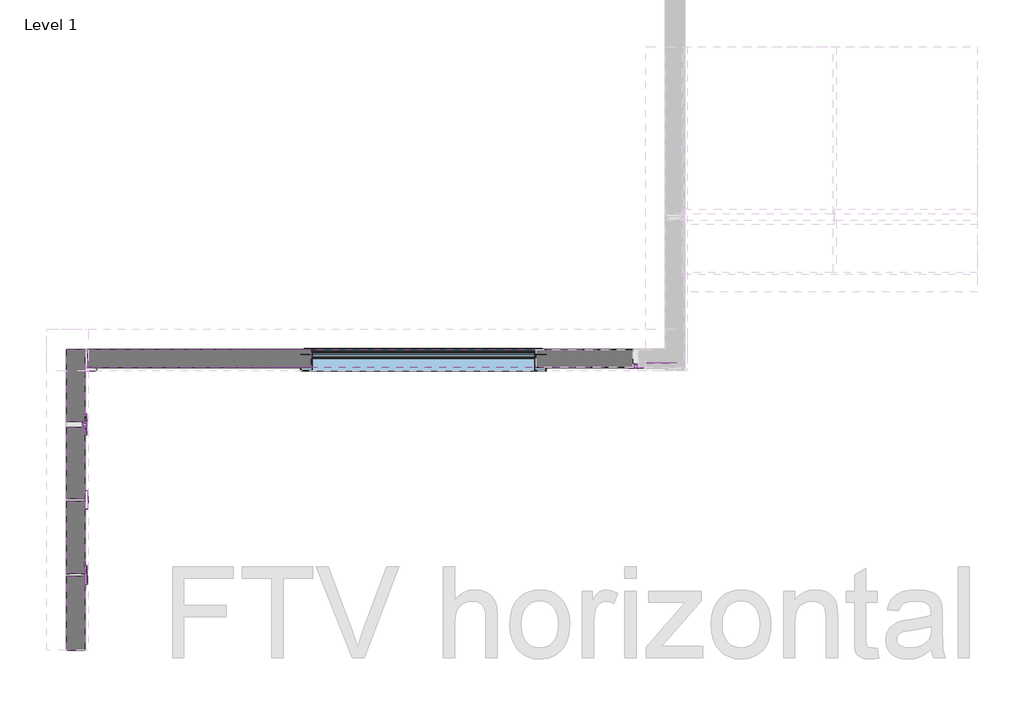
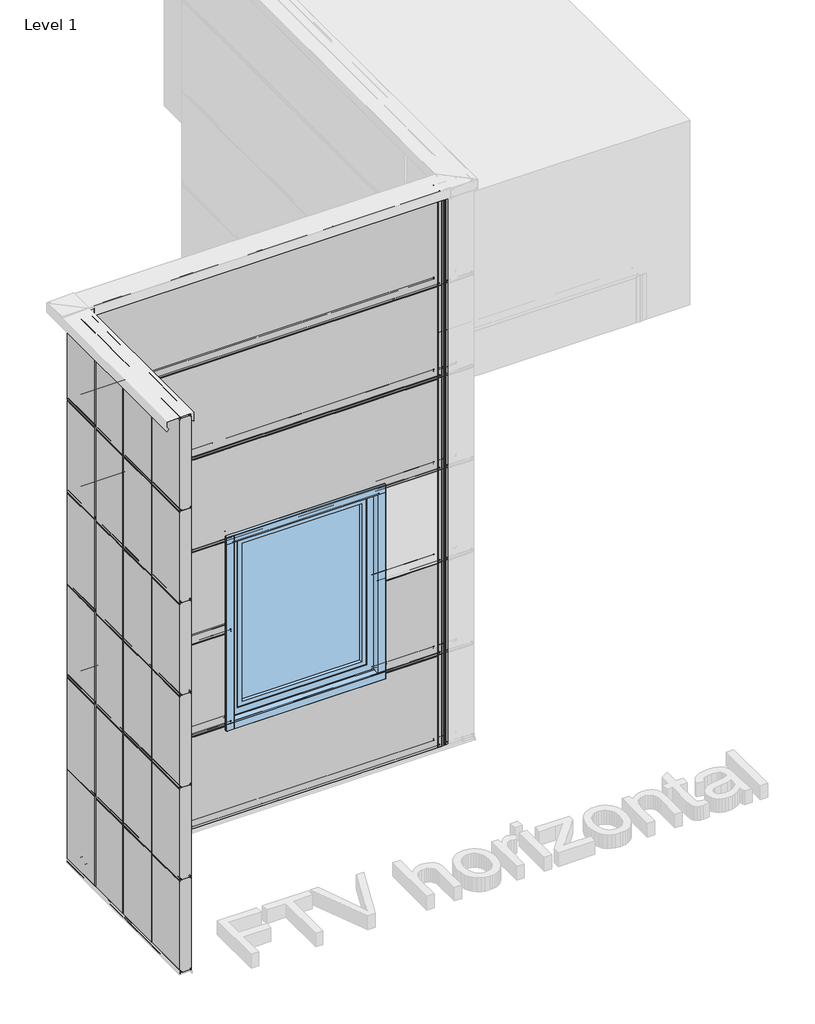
# One storey, part 1 of 16: 37 plates, 30 members, 1 window.
"""IFC4 building model written with IfcOpenShell, lengths in millimetres."""

from ifc_helpers import new_model, si_unit, point, frame, frame_2d, origin, place, context, project, spatial, polyline, circle_curve, trimmed, segment, composite_curve, outline, extrude, transform, mapped, element, save
from components import rectangular_mullion_6308ee2a, rectangular_mullion_7144c495, rectangular_mullion_135eb77f, rectangular_mullion_4161400c, rectangular_mullion_02bb17b1, plate_120_ral9006_ral9002_ab2d50b4, plate_120_ral9006_ral9002_a1a76ba9, plate_120_ral9006_ral9002_dde24b33, plate_120_ral9006_ral9002_b39c6196, plate_120_ral9006_ral9002_7d0d0ae2, tr_empty_empty_6663efe4, window_1663a2fa

model = new_model("IFC4")

# Units and contexts
model_context = context("Model", 3, world=origin())
ifc_project = project(units=[si_unit("LENGTHUNIT", "METRE", prefix="MILLI")], contexts=[model_context])

# Site, building, storey
site = spatial("IfcSite", under=ifc_project)
building = spatial("IfcBuilding", under=site)
storey = spatial("IfcBuildingStorey", under=building, Name="Level 1", Elevation=0.0)

# Members
placement = place(None, origin())
rectangular_mullion_shape = rectangular_mullion_6308ee2a(model_context)
element("IfcMember", 1, ObjectType="Rectangular Mullion : TE-H-01_03_Joint HF102", at=placement, inside=storey, context=model_context, shape_type="MappedRepresentation", body=[
    mapped(rectangular_mullion_shape, transform((-314.1155057, -12030.3930879, 1167.0), x_axis=(-1.0, 0.0, 0.0), y_axis=(0.0, 1.0, 0.0), z_axis=(0.0, 0.0, -1.0))),
])
element("IfcMember", 2, ObjectType="Rectangular Mullion : TE-H-01_03_Joint HF102", at=placement, inside=storey, context=model_context, shape_type="MappedRepresentation", body=[
    mapped(rectangular_mullion_shape, transform((-314.1155057, -12030.3930879, 2167.0), x_axis=(-1.0, 0.0, 0.0), y_axis=(0.0, 1.0, 0.0), z_axis=(0.0, 0.0, -1.0))),
])
element("IfcMember", 3, ObjectType="Rectangular Mullion : TE-H-01_03_Joint HF102", at=placement, inside=storey, context=model_context, shape_type="MappedRepresentation", body=[
    mapped(rectangular_mullion_shape, transform((-314.1155057, -12030.3930879, 3167.0), x_axis=(-1.0, 0.0, 0.0), y_axis=(0.0, 1.0, 0.0), z_axis=(0.0, 0.0, -1.0))),
])
element("IfcMember", 4, ObjectType="Rectangular Mullion : TE-H-01_03_Joint HF102", at=placement, inside=storey, context=model_context, shape_type="MappedRepresentation", body=[
    mapped(rectangular_mullion_shape, transform((-314.1155057, -12030.3930879, 4167.0), x_axis=(-1.0, 0.0, 0.0), y_axis=(0.0, 1.0, 0.0), z_axis=(0.0, 0.0, -1.0))),
])
rectangular_mullion_2_shape = rectangular_mullion_7144c495(model_context)
element("IfcMember", 5, ObjectType="Rectangular Mullion : TE-H-01_04_Joint HF140", at=placement, inside=storey, context=model_context, shape_type="MappedRepresentation", body=[
    mapped(rectangular_mullion_2_shape, transform((-3974.1155057, -12410.3930879, 1167.0), x_axis=(0.0, -1.0, 0.0), y_axis=(-1.0, 0.0, 0.0), z_axis=(0.0, 0.0, -1.0))),
])
element("IfcMember", 6, ObjectType="Rectangular Mullion : TE-H-01_04_Joint HF140", at=placement, inside=storey, context=model_context, shape_type="MappedRepresentation", body=[
    mapped(rectangular_mullion_2_shape, transform((-3974.1155057, -12410.3930879, 2167.0), x_axis=(0.0, -1.0, 0.0), y_axis=(-1.0, 0.0, 0.0), z_axis=(0.0, 0.0, -1.0))),
])
element("IfcMember", 7, ObjectType="Rectangular Mullion : TE-H-01_04_Joint HF140", at=placement, inside=storey, context=model_context, shape_type="MappedRepresentation", body=[
    mapped(rectangular_mullion_2_shape, transform((-3974.1155057, -12410.3930879, 3167.0), x_axis=(0.0, -1.0, 0.0), y_axis=(-1.0, 0.0, 0.0), z_axis=(0.0, 0.0, -1.0))),
])
element("IfcMember", 8, ObjectType="Rectangular Mullion : TE-H-01_04_Joint HF140", at=placement, inside=storey, context=model_context, shape_type="MappedRepresentation", body=[
    mapped(rectangular_mullion_2_shape, transform((-3974.1155057, -12410.3930879, 4167.0), x_axis=(0.0, -1.0, 0.0), y_axis=(-1.0, 0.0, 0.0), z_axis=(0.0, 0.0, -1.0))),
])
rectangular_mullion_3_shape = rectangular_mullion_135eb77f(model_context)
element("IfcMember", 9, ObjectType="Rectangular Mullion : TE-H-01_01_Joint flashing", at=placement, inside=storey, context=model_context, shape_type="MappedRepresentation", body=[
    mapped(rectangular_mullion_3_shape, transform((-3974.1155057, -13410.3930879, 1167.0), x_axis=(0.0, -1.0, 0.0), y_axis=(-1.0, 0.0, 0.0), z_axis=(0.0, 0.0, -1.0))),
])
element("IfcMember", 10, ObjectType="Rectangular Mullion : TE-H-01_01_Joint flashing", at=placement, inside=storey, context=model_context, shape_type="MappedRepresentation", body=[
    mapped(rectangular_mullion_3_shape, transform((-3974.1155057, -13410.3930879, 2167.0), x_axis=(0.0, -1.0, 0.0), y_axis=(-1.0, 0.0, 0.0), z_axis=(0.0, 0.0, -1.0))),
])
element("IfcMember", 11, ObjectType="Rectangular Mullion : TE-H-01_01_Joint flashing", at=placement, inside=storey, context=model_context, shape_type="MappedRepresentation", body=[
    mapped(rectangular_mullion_3_shape, transform((-3974.1155057, -13410.3930879, 3167.0), x_axis=(0.0, -1.0, 0.0), y_axis=(-1.0, 0.0, 0.0), z_axis=(0.0, 0.0, -1.0))),
])
element("IfcMember", 12, ObjectType="Rectangular Mullion : TE-H-01_01_Joint flashing", at=placement, inside=storey, context=model_context, shape_type="MappedRepresentation", body=[
    mapped(rectangular_mullion_3_shape, transform((-3974.1155057, -13410.3930879, 4167.0), x_axis=(0.0, -1.0, 0.0), y_axis=(-1.0, 0.0, 0.0), z_axis=(0.0, 0.0, -1.0))),
])
rectangular_mullion_4_shape = rectangular_mullion_4161400c(model_context)
element("IfcMember", 13, ObjectType="Rectangular Mullion : TE-H-01_02_Joint flashing i", at=placement, inside=storey, context=model_context, shape_type="MappedRepresentation", body=[
    mapped(rectangular_mullion_4_shape, transform((-3974.1155057, -12910.3930879, 1167.0), x_axis=(0.0, -1.0, 0.0), y_axis=(-1.0, 0.0, 0.0), z_axis=(0.0, 0.0, -1.0))),
])
element("IfcMember", 14, ObjectType="Rectangular Mullion : TE-H-01_02_Joint flashing i", at=placement, inside=storey, context=model_context, shape_type="MappedRepresentation", body=[
    mapped(rectangular_mullion_4_shape, transform((-3974.1155057, -12910.3930879, 2167.0), x_axis=(0.0, -1.0, 0.0), y_axis=(-1.0, 0.0, 0.0), z_axis=(0.0, 0.0, -1.0))),
])
element("IfcMember", 15, ObjectType="Rectangular Mullion : TE-H-01_02_Joint flashing i", at=placement, inside=storey, context=model_context, shape_type="MappedRepresentation", body=[
    mapped(rectangular_mullion_4_shape, transform((-3974.1155057, -12910.3930879, 3167.0), x_axis=(0.0, -1.0, 0.0), y_axis=(-1.0, 0.0, 0.0), z_axis=(0.0, 0.0, -1.0))),
])
element("IfcMember", 16, ObjectType="Rectangular Mullion : TE-H-01_02_Joint flashing i", at=placement, inside=storey, context=model_context, shape_type="MappedRepresentation", body=[
    mapped(rectangular_mullion_4_shape, transform((-3974.1155057, -12910.3930879, 4167.0), x_axis=(0.0, -1.0, 0.0), y_axis=(-1.0, 0.0, 0.0), z_axis=(0.0, 0.0, -1.0))),
])
rectangular_mullion_5_shape = rectangular_mullion_02bb17b1(model_context)
element("IfcMember", 17, ObjectType="Rectangular Mullion : TE-H-05_02_Internal corner i L", at=placement, inside=storey, context=model_context, shape_type="MappedRepresentation", body=[
    mapped(rectangular_mullion_5_shape, transform((-3974.1155057, -12030.3930879, 1167.0), x_axis=(-1.0, 0.0, 0.0), y_axis=(0.0, 1.0, 0.0), z_axis=(0.0, 0.0, -1.0))),
])
element("IfcMember", 18, ObjectType="Rectangular Mullion : TE-H-05_02_Internal corner i L", at=placement, inside=storey, context=model_context, shape_type="MappedRepresentation", body=[
    mapped(rectangular_mullion_5_shape, transform((-3974.1155057, -12030.3930879, 2167.0), x_axis=(-1.0, 0.0, 0.0), y_axis=(0.0, 1.0, 0.0), z_axis=(0.0, 0.0, -1.0))),
])
element("IfcMember", 19, ObjectType="Rectangular Mullion : TE-H-05_02_Internal corner i L", at=placement, inside=storey, context=model_context, shape_type="MappedRepresentation", body=[
    mapped(rectangular_mullion_5_shape, transform((-3974.1155057, -12030.3930879, 3167.0), x_axis=(-1.0, 0.0, 0.0), y_axis=(0.0, 1.0, 0.0), z_axis=(0.0, 0.0, -1.0))),
])
element("IfcMember", 20, ObjectType="Rectangular Mullion : TE-H-05_02_Internal corner i L", at=placement, inside=storey, context=model_context, shape_type="MappedRepresentation", body=[
    mapped(rectangular_mullion_5_shape, transform((-3974.1155057, -12030.3930879, 4167.0), x_axis=(-1.0, 0.0, 0.0), y_axis=(0.0, 1.0, 0.0), z_axis=(0.0, 0.0, -1.0))),
])
element("IfcMember", 21, ObjectType="Rectangular Mullion : TE-H-01_04_Joint HF140", at=placement, inside=storey, context=model_context, shape_type="MappedRepresentation", body=[
    mapped(rectangular_mullion_2_shape, transform((-3974.1155057, -12410.3930879, 167.0), x_axis=(0.0, -1.0, 0.0), y_axis=(-1.0, 0.0, 0.0), z_axis=(0.0, 0.0, -1.0))),
])
element("IfcMember", 22, ObjectType="Rectangular Mullion : TE-H-01_04_Joint HF140", at=placement, inside=storey, context=model_context, shape_type="MappedRepresentation", body=[
    mapped(rectangular_mullion_2_shape, transform((-3974.1155057, -12410.3930879, 5167.0), x_axis=(0.0, -1.0, 0.0), y_axis=(-1.0, 0.0, 0.0), z_axis=(0.0, 0.0, -1.0))),
])
element("IfcMember", 23, ObjectType="Rectangular Mullion : TE-H-01_01_Joint flashing", at=placement, inside=storey, context=model_context, shape_type="MappedRepresentation", body=[
    mapped(rectangular_mullion_3_shape, transform((-3974.1155057, -13410.3930879, 167.0), x_axis=(0.0, -1.0, 0.0), y_axis=(-1.0, 0.0, 0.0), z_axis=(0.0, 0.0, -1.0))),
])
element("IfcMember", 24, ObjectType="Rectangular Mullion : TE-H-01_01_Joint flashing", at=placement, inside=storey, context=model_context, shape_type="MappedRepresentation", body=[
    mapped(rectangular_mullion_3_shape, transform((-3974.1155057, -13410.3930879, 5167.0), x_axis=(0.0, -1.0, 0.0), y_axis=(-1.0, 0.0, 0.0), z_axis=(0.0, 0.0, -1.0))),
])
element("IfcMember", 25, ObjectType="Rectangular Mullion : TE-H-01_02_Joint flashing i", at=placement, inside=storey, context=model_context, shape_type="MappedRepresentation", body=[
    mapped(rectangular_mullion_4_shape, transform((-3974.1155057, -12910.3930879, 167.0), x_axis=(0.0, -1.0, 0.0), y_axis=(-1.0, 0.0, 0.0), z_axis=(0.0, 0.0, -1.0))),
])
element("IfcMember", 26, ObjectType="Rectangular Mullion : TE-H-01_02_Joint flashing i", at=placement, inside=storey, context=model_context, shape_type="MappedRepresentation", body=[
    mapped(rectangular_mullion_4_shape, transform((-3974.1155057, -12910.3930879, 5167.0), x_axis=(0.0, -1.0, 0.0), y_axis=(-1.0, 0.0, 0.0), z_axis=(0.0, 0.0, -1.0))),
])
element("IfcMember", 27, ObjectType="Rectangular Mullion : TE-H-01_03_Joint HF102", at=placement, inside=storey, context=model_context, shape_type="MappedRepresentation", body=[
    mapped(rectangular_mullion_shape, transform((-314.1155057, -12030.3930879, 167.0), x_axis=(-1.0, 0.0, 0.0), y_axis=(0.0, 1.0, 0.0), z_axis=(0.0, 0.0, -1.0))),
])
element("IfcMember", 28, ObjectType="Rectangular Mullion : TE-H-01_03_Joint HF102", at=placement, inside=storey, context=model_context, shape_type="MappedRepresentation", body=[
    mapped(rectangular_mullion_shape, transform((-314.1155057, -12030.3930879, 5167.0), x_axis=(-1.0, 0.0, 0.0), y_axis=(0.0, 1.0, 0.0), z_axis=(0.0, 0.0, -1.0))),
])
element("IfcMember", 29, ObjectType="Rectangular Mullion : TE-H-05_02_Internal corner i L", at=placement, inside=storey, context=model_context, shape_type="MappedRepresentation", body=[
    mapped(rectangular_mullion_5_shape, transform((-3974.1155057, -12030.3930879, 167.0), x_axis=(-1.0, 0.0, 0.0), y_axis=(0.0, 1.0, 0.0), z_axis=(0.0, 0.0, -1.0))),
])
element("IfcMember", 30, ObjectType="Rectangular Mullion : TE-H-05_02_Internal corner i L", at=placement, inside=storey, context=model_context, shape_type="MappedRepresentation", body=[
    mapped(rectangular_mullion_5_shape, transform((-3974.1155057, -12030.3930879, 5167.0), x_axis=(-1.0, 0.0, 0.0), y_axis=(0.0, 1.0, 0.0), z_axis=(0.0, 0.0, -1.0))),
])

# Plates
element("IfcPlate", 31, ObjectType="TR_C_H_FTV_Panel : 120/RAL9006/RAL9002", at=placement, inside=storey, context=model_context, shape_type="SweptSolid", body=[
    extrude(outline(composite_curve([segment(polyline([(-11927.2800551, 2166.8000012), (-11931.3930879, 2166.8000012), (-11931.3930879, 2167.6000012), (-11927.2800551, 2167.6000012)]), True, "CONTINUOUS"), segment(trimmed(circle_curve(frame_2d((-11927.2800551, 2171.3500012)), 3.75), [point((-11927.2800551, 2167.6000012))], [point((-11923.587026, 2170.6988205))], True, "CARTESIAN"), True, "CONTINUOUS"), segment(polyline([(-11923.587026, 2170.6988205), (-11922.8437131, 2174.9143577)]), True, "CONTINUOUS"), segment(trimmed(circle_curve(frame_2d((-11919.6430879, 2174.3500012)), 3.25), [point((-11922.8437131, 2174.9143577))], [point((-11916.3930879, 2174.3500012))], False, "CARTESIAN"), True, "CONTINUOUS"), segment(polyline([(-11916.3930879, 2174.3500012), (-11916.3930879, 2159.6000012)]), True, "CONTINUOUS"), segment(trimmed(circle_curve(frame_2d((-11913.8930879, 2159.6000012)), 2.5), [point((-11916.3930879, 2159.6000012))], [point((-11915.6608548, 2157.8322342))], True, "CARTESIAN"), True, "CONTINUOUS"), segment(polyline([(-11915.6608548, 2157.8322342), (-11911.2717675, 2153.4431469)]), True, "CONTINUOUS"), segment(trimmed(circle_curve(frame_2d((-11913.3930879, 2151.3218266)), 3.0), [point((-11911.2717675, 2153.4431469))], [point((-11910.3930879, 2151.3218266))], False, "CARTESIAN"), True, "CONTINUOUS"), segment(polyline([(-11910.3930879, 2151.3218266), (-11910.3930879, 1161.981372)]), True, "CONTINUOUS"), segment(trimmed(circle_curve(frame_2d((-11913.1430879, 1161.981372)), 2.75), [point((-11910.3930879, 1161.981372))], [point((-11911.1985442, 1160.0368284))], False, "CARTESIAN"), True, "CONTINUOUS"), segment(polyline([(-11911.1985442, 1160.0368284), (-11913.0642296, 1158.1711429)]), True, "CONTINUOUS"), segment(trimmed(circle_curve(frame_2d((-11914.4430879, 1159.5500012)), 1.95), [point((-11913.0642296, 1158.1711429))], [point((-11916.3930879, 1159.5500012))], False, "CARTESIAN"), True, "CONTINUOUS"), segment(polyline([(-11916.3930879, 1159.5500012), (-11916.3930879, 1177.1500012)]), True, "CONTINUOUS"), segment(trimmed(circle_curve(frame_2d((-11919.8430879, 1177.1500012)), 3.45), [point((-11916.3930879, 1177.1500012))], [point((-11923.2406746, 1177.7490874))], True, "CARTESIAN"), True, "CONTINUOUS"), segment(polyline([(-11923.2406746, 1177.7490874), (-11924.3074999, 1171.6988205)]), True, "CONTINUOUS"), segment(trimmed(circle_curve(frame_2d((-11928.000529, 1172.3500012)), 3.75), [point((-11924.3074999, 1171.6988205))], [point((-11928.000529, 1168.6000012))], False, "CARTESIAN"), True, "CONTINUOUS"), segment(polyline([(-11928.000529, 1168.6000012), (-11931.3930879, 1168.6000012), (-11931.3930879, 1169.4000012), (-11928.000529, 1169.4000012)]), True, "CONTINUOUS"), segment(trimmed(circle_curve(frame_2d((-11928.000529, 1172.3500012)), 2.95), [point((-11928.000529, 1169.4000012))], [point((-11925.0953461, 1171.837739))], True, "CARTESIAN"), True, "CONTINUOUS"), segment(polyline([(-11925.0953461, 1171.837739), (-11924.0285208, 1177.8880059)]), True, "CONTINUOUS"), segment(trimmed(circle_curve(frame_2d((-11919.8430879, 1177.1500012)), 4.25), [point((-11924.0285208, 1177.8880059))], [point((-11915.5930879, 1177.1500012))], False, "CARTESIAN"), True, "CONTINUOUS"), segment(polyline([(-11915.5930879, 1177.1500012), (-11915.5930879, 1159.5500012)]), True, "CONTINUOUS"), segment(trimmed(circle_curve(frame_2d((-11914.4430879, 1159.5500012)), 1.15), [point((-11915.5930879, 1159.5500012))], [point((-11913.6299151, 1158.7368284))], True, "CARTESIAN"), True, "CONTINUOUS"), segment(polyline([(-11913.6299151, 1158.7368284), (-11911.7642296, 1160.6025138)]), True, "CONTINUOUS"), segment(trimmed(circle_curve(frame_2d((-11913.1430879, 1161.981372)), 1.95), [point((-11911.7642296, 1160.6025138))], [point((-11911.1930879, 1161.981372))], True, "CARTESIAN"), True, "CONTINUOUS"), segment(polyline([(-11911.1930879, 1161.981372), (-11911.1930879, 2151.3218266)]), True, "CONTINUOUS"), segment(trimmed(circle_curve(frame_2d((-11913.3930879, 2151.3218266)), 2.2), [point((-11911.1930879, 2151.3218266))], [point((-11911.837453, 2152.8774615))], True, "CARTESIAN"), True, "CONTINUOUS"), segment(polyline([(-11911.837453, 2152.8774615), (-11916.2265402, 2157.2665488)]), True, "CONTINUOUS"), segment(trimmed(circle_curve(frame_2d((-11913.8930879, 2159.6000012)), 3.3), [point((-11916.2265402, 2157.2665488))], [point((-11917.1930879, 2159.6000012))], False, "CARTESIAN"), True, "CONTINUOUS"), segment(polyline([(-11917.1930879, 2159.6000012), (-11917.1930879, 2174.3500012)]), True, "CONTINUOUS"), segment(trimmed(circle_curve(frame_2d((-11919.6430879, 2174.3500012)), 2.45), [point((-11917.1930879, 2174.3500012))], [point((-11922.0558669, 2174.7754392))], True, "CARTESIAN"), True, "CONTINUOUS"), segment(polyline([(-11922.0558669, 2174.7754392), (-11922.7991798, 2170.559902)]), True, "CONTINUOUS"), segment(trimmed(circle_curve(frame_2d((-11927.2800551, 2171.3500012)), 4.55), [point((-11922.7991798, 2170.559902))], [point((-11927.2800551, 2166.8000012))], False, "CARTESIAN"), True, "CONTINUOUS")], self_intersect=False)), frame((-974.1155057, 0.0, 0.0), z_axis=(1.0, 0.0, 0.0), x_axis=(0.0, 1.0, 0.0)), (0.0, 0.0, 1.0), 640.0),
    extrude(outline(composite_curve([segment(polyline([(-12009.3930879, 1169.4000012), (-12009.3930879, 1168.6000012), (-12012.7856468, 1168.6000012)]), True, "CONTINUOUS"), segment(trimmed(circle_curve(frame_2d((-12012.7856468, 1172.3500012)), 3.75), [point((-12012.7856468, 1168.6000012))], [point((-12016.4786758, 1171.6988205))], False, "CARTESIAN"), True, "CONTINUOUS"), segment(polyline([(-12016.4786758, 1171.6988205), (-12017.5455011, 1177.7490874)]), True, "CONTINUOUS"), segment(trimmed(circle_curve(frame_2d((-12020.9430879, 1177.1500012)), 3.45), [point((-12017.5455011, 1177.7490874))], [point((-12024.3930879, 1177.1500012))], True, "CARTESIAN"), True, "CONTINUOUS"), segment(polyline([(-12024.3930879, 1177.1500012), (-12024.3930879, 1159.5500012)]), True, "CONTINUOUS"), segment(trimmed(circle_curve(frame_2d((-12026.3430879, 1159.5500012)), 1.95), [point((-12024.3930879, 1159.5500012))], [point((-12027.7219461, 1158.1711429))], False, "CARTESIAN"), True, "CONTINUOUS"), segment(polyline([(-12027.7219461, 1158.1711429), (-12029.5876315, 1160.0368284)]), True, "CONTINUOUS"), segment(trimmed(circle_curve(frame_2d((-12027.6430879, 1161.981372)), 2.75), [point((-12029.5876315, 1160.0368284))], [point((-12030.3930879, 1161.981372))], False, "CARTESIAN"), True, "CONTINUOUS"), segment(polyline([(-12030.3930879, 1161.981372), (-12030.3930879, 2151.3218266)]), True, "CONTINUOUS"), segment(trimmed(circle_curve(frame_2d((-12027.3930879, 2151.3218266)), 3.0), [point((-12030.3930879, 2151.3218266))], [point((-12029.5144082, 2153.4431469))], False, "CARTESIAN"), True, "CONTINUOUS"), segment(polyline([(-12029.5144082, 2153.4431469), (-12025.1253209, 2157.8322342)]), True, "CONTINUOUS"), segment(trimmed(circle_curve(frame_2d((-12026.8930879, 2159.6000012)), 2.5), [point((-12025.1253209, 2157.8322342))], [point((-12024.3930879, 2159.6000012))], True, "CARTESIAN"), True, "CONTINUOUS"), segment(polyline([(-12024.3930879, 2159.6000012), (-12024.3930879, 2174.3500012)]), True, "CONTINUOUS"), segment(trimmed(circle_curve(frame_2d((-12021.1430879, 2174.3500012)), 3.25), [point((-12024.3930879, 2174.3500012))], [point((-12017.9424627, 2174.9143577))], False, "CARTESIAN"), True, "CONTINUOUS"), segment(polyline([(-12017.9424627, 2174.9143577), (-12017.1991497, 2170.6988205)]), True, "CONTINUOUS"), segment(trimmed(circle_curve(frame_2d((-12013.5061206, 2171.3500012)), 3.75), [point((-12017.1991497, 2170.6988205))], [point((-12013.5061206, 2167.6000012))], True, "CARTESIAN"), True, "CONTINUOUS"), segment(polyline([(-12013.5061206, 2167.6000012), (-12009.3930879, 2167.6000012), (-12009.3930879, 2166.8000012), (-12013.5061206, 2166.8000012)]), True, "CONTINUOUS"), segment(trimmed(circle_curve(frame_2d((-12013.5061206, 2171.3500012)), 4.55), [point((-12013.5061206, 2166.8000012))], [point((-12017.9869959, 2170.559902))], False, "CARTESIAN"), True, "CONTINUOUS"), segment(polyline([(-12017.9869959, 2170.559902), (-12018.7303089, 2174.7754392)]), True, "CONTINUOUS"), segment(trimmed(circle_curve(frame_2d((-12021.1430879, 2174.3500012)), 2.45), [point((-12018.7303089, 2174.7754392))], [point((-12023.5930879, 2174.3500012))], True, "CARTESIAN"), True, "CONTINUOUS"), segment(polyline([(-12023.5930879, 2174.3500012), (-12023.5930879, 2159.6000012)]), True, "CONTINUOUS"), segment(trimmed(circle_curve(frame_2d((-12026.8930879, 2159.6000012)), 3.3), [point((-12023.5930879, 2159.6000012))], [point((-12024.5596355, 2157.2665488))], False, "CARTESIAN"), True, "CONTINUOUS"), segment(polyline([(-12024.5596355, 2157.2665488), (-12028.9487228, 2152.8774615)]), True, "CONTINUOUS"), segment(trimmed(circle_curve(frame_2d((-12027.3930879, 2151.3218266)), 2.2), [point((-12028.9487228, 2152.8774615))], [point((-12029.5930879, 2151.3218266))], True, "CARTESIAN"), True, "CONTINUOUS"), segment(polyline([(-12029.5930879, 2151.3218266), (-12029.5930879, 1161.981372)]), True, "CONTINUOUS"), segment(trimmed(circle_curve(frame_2d((-12027.6430879, 1161.981372)), 1.95), [point((-12029.5930879, 1161.981372))], [point((-12029.0219461, 1160.6025138))], True, "CARTESIAN"), True, "CONTINUOUS"), segment(polyline([(-12029.0219461, 1160.6025138), (-12027.1562607, 1158.7368284)]), True, "CONTINUOUS"), segment(trimmed(circle_curve(frame_2d((-12026.3430879, 1159.5500012)), 1.15), [point((-12027.1562607, 1158.7368284))], [point((-12025.1930879, 1159.5500012))], True, "CARTESIAN"), True, "CONTINUOUS"), segment(polyline([(-12025.1930879, 1159.5500012), (-12025.1930879, 1177.1500012)]), True, "CONTINUOUS"), segment(trimmed(circle_curve(frame_2d((-12020.9430879, 1177.1500012)), 4.25), [point((-12025.1930879, 1177.1500012))], [point((-12016.7576549, 1177.8880059))], False, "CARTESIAN"), True, "CONTINUOUS"), segment(polyline([(-12016.7576549, 1177.8880059), (-12015.6908296, 1171.837739)]), True, "CONTINUOUS"), segment(trimmed(circle_curve(frame_2d((-12012.7856468, 1172.3500012)), 2.95), [point((-12015.6908296, 1171.837739))], [point((-12012.7856468, 1169.4000012))], True, "CARTESIAN"), True, "CONTINUOUS"), segment(polyline([(-12012.7856468, 1169.4000012), (-12009.3930879, 1169.4000012)]), True, "CONTINUOUS")], self_intersect=False)), frame((-974.1155057, 0.0, 0.0), z_axis=(1.0, 0.0, 0.0), x_axis=(0.0, 1.0, 0.0)), (0.0, 0.0, 1.0), 640.0),
    extrude(outline(composite_curve([segment(polyline([(-12029.5930879, 1181.4000012), (-12029.5930879, 2151.3218266)]), True, "CONTINUOUS"), segment(trimmed(circle_curve(frame_2d((-12027.3930879, 2151.3218266)), 2.2), [point((-12029.5930879, 2151.3218266))], [point((-12028.9487228, 2152.8774615))], False, "CARTESIAN"), True, "CONTINUOUS"), segment(polyline([(-12028.9487228, 2152.8774615), (-12024.5596355, 2157.2665488)]), True, "CONTINUOUS"), segment(trimmed(circle_curve(frame_2d((-12026.8930879, 2159.6000012)), 3.3), [point((-12024.5596355, 2157.2665488))], [point((-12023.5930879, 2159.6000012))], True, "CARTESIAN"), True, "CONTINUOUS"), segment(polyline([(-12023.5930879, 2159.6000012), (-12023.5930879, 2167.0), (-11917.1930879, 2167.0), (-11917.1930879, 2159.6000012)]), True, "CONTINUOUS"), segment(trimmed(circle_curve(frame_2d((-11913.8930879, 2159.6000012)), 3.3), [point((-11917.1930879, 2159.6000012))], [point((-11916.2265402, 2157.2665488))], True, "CARTESIAN"), True, "CONTINUOUS"), segment(polyline([(-11916.2265402, 2157.2665488), (-11911.837453, 2152.8774615)]), True, "CONTINUOUS"), segment(trimmed(circle_curve(frame_2d((-11913.3930879, 2151.3218266)), 2.2), [point((-11911.837453, 2152.8774615))], [point((-11911.1930879, 2151.3218266))], False, "CARTESIAN"), True, "CONTINUOUS"), segment(polyline([(-11911.1930879, 2151.3218266), (-11911.1930879, 1181.4000012), (-11919.8430879, 1181.4000012)]), True, "CONTINUOUS"), segment(trimmed(circle_curve(frame_2d((-11919.8430879, 1177.1500012)), 4.25), [point((-11919.8430879, 1181.4000012))], [point((-11924.0285208, 1177.8880059))], True, "CARTESIAN"), True, "CONTINUOUS"), segment(polyline([(-11924.0285208, 1177.8880059), (-11925.0953461, 1171.837739)]), True, "CONTINUOUS"), segment(trimmed(circle_curve(frame_2d((-11928.000529, 1172.3500012)), 2.95), [point((-11925.0953461, 1171.837739))], [point((-11928.000529, 1169.4000012))], False, "CARTESIAN"), True, "CONTINUOUS"), segment(polyline([(-11928.000529, 1169.4000012), (-11934.0930879, 1169.4000012), (-11934.0930879, 1167.0000012), (-12006.6930879, 1167.0000012), (-12006.6930879, 1169.4000012), (-12012.7856468, 1169.4000012)]), True, "CONTINUOUS"), segment(trimmed(circle_curve(frame_2d((-12012.7856468, 1172.3500012)), 2.95), [point((-12012.7856468, 1169.4000012))], [point((-12015.6908296, 1171.837739))], False, "CARTESIAN"), True, "CONTINUOUS"), segment(polyline([(-12015.6908296, 1171.837739), (-12016.7576549, 1177.8880059)]), True, "CONTINUOUS"), segment(trimmed(circle_curve(frame_2d((-12020.9430879, 1177.1500012)), 4.25), [point((-12016.7576549, 1177.8880059))], [point((-12020.9430879, 1181.4000012))], True, "CARTESIAN"), True, "CONTINUOUS"), segment(polyline([(-12020.9430879, 1181.4000012), (-12029.5930879, 1181.4000012)]), True, "CONTINUOUS")], self_intersect=False)), frame((-974.1155057, 0.0, 0.0), z_axis=(1.0, 0.0, 0.0), x_axis=(0.0, 1.0, 0.0)), (0.0, 0.0, 1.0), 640.0),
])
plate_120_ral9006_ral9002_shape = plate_120_ral9006_ral9002_ab2d50b4(model_context)
element("IfcPlate", 32, ObjectType="TR_C_H_FTV_Panel : 120/RAL9006/RAL9002", at=placement, inside=storey, context=model_context, shape_type="MappedRepresentation", body=[
    mapped(plate_120_ral9006_ral9002_shape, transform((-3974.1155057, -12150.3930879, 167.0), x_axis=(0.0, -1.0, 0.0), y_axis=(1.0, 0.0, 0.0), z_axis=(0.0, 0.0, 1.0))),
])
element("IfcPlate", 33, ObjectType="TR_C_H_FTV_Panel : 120/RAL9006/RAL9002", at=placement, inside=storey, context=model_context, shape_type="MappedRepresentation", body=[
    mapped(plate_120_ral9006_ral9002_shape, transform((-3974.1155057, -12150.3930879, 1167.0), x_axis=(0.0, -1.0, 0.0), y_axis=(1.0, 0.0, 0.0), z_axis=(0.0, 0.0, 1.0))),
])
element("IfcPlate", 34, ObjectType="TR_C_H_FTV_Panel : 120/RAL9006/RAL9002", at=placement, inside=storey, context=model_context, shape_type="MappedRepresentation", body=[
    mapped(plate_120_ral9006_ral9002_shape, transform((-3974.1155057, -12150.3930879, 2167.0), x_axis=(0.0, -1.0, 0.0), y_axis=(1.0, 0.0, 0.0), z_axis=(0.0, 0.0, 1.0))),
])
element("IfcPlate", 35, ObjectType="TR_C_H_FTV_Panel : 120/RAL9006/RAL9002", at=placement, inside=storey, context=model_context, shape_type="MappedRepresentation", body=[
    mapped(plate_120_ral9006_ral9002_shape, transform((-3974.1155057, -12150.3930879, 3167.0), x_axis=(0.0, -1.0, 0.0), y_axis=(1.0, 0.0, 0.0), z_axis=(0.0, 0.0, 1.0))),
])
element("IfcPlate", 36, ObjectType="TR_C_H_FTV_Panel : 120/RAL9006/RAL9002", at=placement, inside=storey, context=model_context, shape_type="MappedRepresentation", body=[
    mapped(plate_120_ral9006_ral9002_shape, transform((-3974.1155057, -12150.3930879, 4167.0), x_axis=(0.0, -1.0, 0.0), y_axis=(1.0, 0.0, 0.0), z_axis=(0.0, 0.0, 1.0))),
])
element("IfcPlate", 37, ObjectType="TR_C_H_FTV_Panel : 120/RAL9006/RAL9002", at=placement, inside=storey, context=model_context, shape_type="MappedRepresentation", body=[
    mapped(plate_120_ral9006_ral9002_shape, transform((-3974.1155057, -12150.3930879, 5167.0), x_axis=(0.0, -1.0, 0.0), y_axis=(1.0, 0.0, 0.0), z_axis=(0.0, 0.0, 1.0))),
])
element("IfcPlate", 38, ObjectType="TR_C_H_FTV_Panel : 120/RAL9006/RAL9002", at=placement, inside=storey, context=model_context, shape_type="MappedRepresentation", body=[
    mapped(plate_120_ral9006_ral9002_shape, transform((-3974.1155057, -13160.3930879, 167.0), x_axis=(0.0, -1.0, 0.0), y_axis=(1.0, 0.0, 0.0), z_axis=(0.0, 0.0, 1.0))),
])
element("IfcPlate", 39, ObjectType="TR_C_H_FTV_Panel : 120/RAL9006/RAL9002", at=placement, inside=storey, context=model_context, shape_type="MappedRepresentation", body=[
    mapped(plate_120_ral9006_ral9002_shape, transform((-3974.1155057, -13160.3930879, 1167.0), x_axis=(0.0, -1.0, 0.0), y_axis=(1.0, 0.0, 0.0), z_axis=(0.0, 0.0, 1.0))),
])
element("IfcPlate", 40, ObjectType="TR_C_H_FTV_Panel : 120/RAL9006/RAL9002", at=placement, inside=storey, context=model_context, shape_type="MappedRepresentation", body=[
    mapped(plate_120_ral9006_ral9002_shape, transform((-3974.1155057, -13160.3930879, 2167.0), x_axis=(0.0, -1.0, 0.0), y_axis=(1.0, 0.0, 0.0), z_axis=(0.0, 0.0, 1.0))),
])
element("IfcPlate", 41, ObjectType="TR_C_H_FTV_Panel : 120/RAL9006/RAL9002", at=placement, inside=storey, context=model_context, shape_type="MappedRepresentation", body=[
    mapped(plate_120_ral9006_ral9002_shape, transform((-3974.1155057, -13160.3930879, 3167.0), x_axis=(0.0, -1.0, 0.0), y_axis=(1.0, 0.0, 0.0), z_axis=(0.0, 0.0, 1.0))),
])
element("IfcPlate", 42, ObjectType="TR_C_H_FTV_Panel : 120/RAL9006/RAL9002", at=placement, inside=storey, context=model_context, shape_type="MappedRepresentation", body=[
    mapped(plate_120_ral9006_ral9002_shape, transform((-3974.1155057, -13160.3930879, 4167.0), x_axis=(0.0, -1.0, 0.0), y_axis=(1.0, 0.0, 0.0), z_axis=(0.0, 0.0, 1.0))),
])
element("IfcPlate", 43, ObjectType="TR_C_H_FTV_Panel : 120/RAL9006/RAL9002", at=placement, inside=storey, context=model_context, shape_type="MappedRepresentation", body=[
    mapped(plate_120_ral9006_ral9002_shape, transform((-3974.1155057, -13160.3930879, 5167.0), x_axis=(0.0, -1.0, 0.0), y_axis=(1.0, 0.0, 0.0), z_axis=(0.0, 0.0, 1.0))),
])
plate_120_ral9006_ral9002_2_shape = plate_120_ral9006_ral9002_a1a76ba9(model_context)
element("IfcPlate", 44, ObjectType="TR_C_H_FTV_Panel : 120/RAL9006/RAL9002", at=placement, inside=storey, context=model_context, shape_type="MappedRepresentation", body=[
    mapped(plate_120_ral9006_ral9002_2_shape, transform((-3974.1155057, -12665.3930879, 167.0), x_axis=(0.0, -1.0, 0.0), y_axis=(1.0, 0.0, 0.0), z_axis=(0.0, 0.0, 1.0))),
])
element("IfcPlate", 45, ObjectType="TR_C_H_FTV_Panel : 120/RAL9006/RAL9002", at=placement, inside=storey, context=model_context, shape_type="MappedRepresentation", body=[
    mapped(plate_120_ral9006_ral9002_2_shape, transform((-3974.1155057, -12665.3930879, 1167.0), x_axis=(0.0, -1.0, 0.0), y_axis=(1.0, 0.0, 0.0), z_axis=(0.0, 0.0, 1.0))),
])
element("IfcPlate", 46, ObjectType="TR_C_H_FTV_Panel : 120/RAL9006/RAL9002", at=placement, inside=storey, context=model_context, shape_type="MappedRepresentation", body=[
    mapped(plate_120_ral9006_ral9002_2_shape, transform((-3974.1155057, -12665.3930879, 2167.0), x_axis=(0.0, -1.0, 0.0), y_axis=(1.0, 0.0, 0.0), z_axis=(0.0, 0.0, 1.0))),
])
element("IfcPlate", 47, ObjectType="TR_C_H_FTV_Panel : 120/RAL9006/RAL9002", at=placement, inside=storey, context=model_context, shape_type="MappedRepresentation", body=[
    mapped(plate_120_ral9006_ral9002_2_shape, transform((-3974.1155057, -12665.3930879, 3167.0), x_axis=(0.0, -1.0, 0.0), y_axis=(1.0, 0.0, 0.0), z_axis=(0.0, 0.0, 1.0))),
])
element("IfcPlate", 48, ObjectType="TR_C_H_FTV_Panel : 120/RAL9006/RAL9002", at=placement, inside=storey, context=model_context, shape_type="MappedRepresentation", body=[
    mapped(plate_120_ral9006_ral9002_2_shape, transform((-3974.1155057, -12665.3930879, 4167.0), x_axis=(0.0, -1.0, 0.0), y_axis=(1.0, 0.0, 0.0), z_axis=(0.0, 0.0, 1.0))),
])
element("IfcPlate", 49, ObjectType="TR_C_H_FTV_Panel : 120/RAL9006/RAL9002", at=placement, inside=storey, context=model_context, shape_type="MappedRepresentation", body=[
    mapped(plate_120_ral9006_ral9002_2_shape, transform((-3974.1155057, -12665.3930879, 5167.0), x_axis=(0.0, -1.0, 0.0), y_axis=(1.0, 0.0, 0.0), z_axis=(0.0, 0.0, 1.0))),
])
plate_120_ral9006_ral9002_3_shape = plate_120_ral9006_ral9002_dde24b33(model_context)
element("IfcPlate", 50, ObjectType="TR_C_H_FTV_Panel : 120/RAL9006/RAL9002", at=placement, inside=storey, context=model_context, shape_type="MappedRepresentation", body=[
    mapped(plate_120_ral9006_ral9002_3_shape, transform((-3974.1155057, -13665.3930879, 167.0), x_axis=(0.0, -1.0, 0.0), y_axis=(1.0, 0.0, 0.0), z_axis=(0.0, 0.0, 1.0))),
])
element("IfcPlate", 51, ObjectType="TR_C_H_FTV_Panel : 120/RAL9006/RAL9002", at=placement, inside=storey, context=model_context, shape_type="MappedRepresentation", body=[
    mapped(plate_120_ral9006_ral9002_3_shape, transform((-3974.1155057, -13665.3930879, 1167.0), x_axis=(0.0, -1.0, 0.0), y_axis=(1.0, 0.0, 0.0), z_axis=(0.0, 0.0, 1.0))),
])
element("IfcPlate", 52, ObjectType="TR_C_H_FTV_Panel : 120/RAL9006/RAL9002", at=placement, inside=storey, context=model_context, shape_type="MappedRepresentation", body=[
    mapped(plate_120_ral9006_ral9002_3_shape, transform((-3974.1155057, -13665.3930879, 2167.0), x_axis=(0.0, -1.0, 0.0), y_axis=(1.0, 0.0, 0.0), z_axis=(0.0, 0.0, 1.0))),
])
element("IfcPlate", 53, ObjectType="TR_C_H_FTV_Panel : 120/RAL9006/RAL9002", at=placement, inside=storey, context=model_context, shape_type="MappedRepresentation", body=[
    mapped(plate_120_ral9006_ral9002_3_shape, transform((-3974.1155057, -13665.3930879, 3167.0), x_axis=(0.0, -1.0, 0.0), y_axis=(1.0, 0.0, 0.0), z_axis=(0.0, 0.0, 1.0))),
])
element("IfcPlate", 54, ObjectType="TR_C_H_FTV_Panel : 120/RAL9006/RAL9002", at=placement, inside=storey, context=model_context, shape_type="MappedRepresentation", body=[
    mapped(plate_120_ral9006_ral9002_3_shape, transform((-3974.1155057, -13665.3930879, 4167.0), x_axis=(0.0, -1.0, 0.0), y_axis=(1.0, 0.0, 0.0), z_axis=(0.0, 0.0, 1.0))),
])
element("IfcPlate", 55, ObjectType="TR_C_H_FTV_Panel : 120/RAL9006/RAL9002", at=placement, inside=storey, context=model_context, shape_type="MappedRepresentation", body=[
    mapped(plate_120_ral9006_ral9002_3_shape, transform((-3974.1155057, -13665.3930879, 5167.0), x_axis=(0.0, -1.0, 0.0), y_axis=(1.0, 0.0, 0.0), z_axis=(0.0, 0.0, 1.0))),
])
plate_120_ral9006_ral9002_4_shape = plate_120_ral9006_ral9002_b39c6196(model_context)
element("IfcPlate", 56, ObjectType="TR_C_H_FTV_Panel : 120/RAL9006/RAL9002", at=placement, inside=storey, context=model_context, shape_type="MappedRepresentation", body=[
    mapped(plate_120_ral9006_ral9002_4_shape, transform((-3214.5155057, -12030.3930879, 1167.0), x_axis=(-1.0, 0.0, 0.0), y_axis=(0.0, -1.0, 0.0), z_axis=(0.0, 0.0, 1.0))),
])
element("IfcPlate", 57, ObjectType="TR_C_H_FTV_Panel : 120/RAL9006/RAL9002", at=placement, inside=storey, context=model_context, shape_type="MappedRepresentation", body=[
    mapped(plate_120_ral9006_ral9002_4_shape, transform((-3214.5155057, -12030.3930879, 2167.0), x_axis=(-1.0, 0.0, 0.0), y_axis=(0.0, -1.0, 0.0), z_axis=(0.0, 0.0, 1.0))),
])
plate_120_ral9006_ral9002_5_shape = plate_120_ral9006_ral9002_7d0d0ae2(model_context)
element("IfcPlate", 58, ObjectType="TR_C_H_FTV_Panel : 120/RAL9006/RAL9002", at=placement, inside=storey, context=model_context, shape_type="MappedRepresentation", body=[
    mapped(plate_120_ral9006_ral9002_5_shape, transform((-2144.5155057, -12030.3930879, 167.0), x_axis=(-1.0, 0.0, 0.0), y_axis=(0.0, -1.0, 0.0), z_axis=(0.0, 0.0, 1.0))),
])
element("IfcPlate", 59, ObjectType="TR_C_H_FTV_Panel : 120/RAL9006/RAL9002", at=placement, inside=storey, context=model_context, shape_type="MappedRepresentation", body=[
    mapped(plate_120_ral9006_ral9002_5_shape, transform((-2144.5155057, -12030.3930879, 3167.0), x_axis=(-1.0, 0.0, 0.0), y_axis=(0.0, -1.0, 0.0), z_axis=(0.0, 0.0, 1.0))),
])
element("IfcPlate", 60, ObjectType="TR_C_H_FTV_Panel : 120/RAL9006/RAL9002", at=placement, inside=storey, context=model_context, shape_type="MappedRepresentation", body=[
    mapped(plate_120_ral9006_ral9002_5_shape, transform((-2144.5155057, -12030.3930879, 4167.0), x_axis=(-1.0, 0.0, 0.0), y_axis=(0.0, -1.0, 0.0), z_axis=(0.0, 0.0, 1.0))),
])
element("IfcPlate", 61, ObjectType="TR_C_H_FTV_Panel : 120/RAL9006/RAL9002", at=placement, inside=storey, context=model_context, shape_type="MappedRepresentation", body=[
    mapped(plate_120_ral9006_ral9002_5_shape, transform((-2144.5155057, -12030.3930879, 5167.0), x_axis=(-1.0, 0.0, 0.0), y_axis=(0.0, -1.0, 0.0), z_axis=(0.0, 0.0, 1.0))),
])
tr_empty_empty_shape = tr_empty_empty_6663efe4(model_context)
element("IfcPlate", 62, ObjectType="TR_EMPTY : EMPTY", at=placement, inside=storey, context=model_context, shape_type="MappedRepresentation", body=[
    mapped(tr_empty_empty_shape, transform((-144.1155057, -12030.3930879, 167.0), x_axis=(-1.0, 0.0, 0.0), y_axis=(0.0, -1.0, 0.0), z_axis=(0.0, 0.0, 1.0))),
])
element("IfcPlate", 63, ObjectType="TR_EMPTY : EMPTY", at=placement, inside=storey, context=model_context, shape_type="MappedRepresentation", body=[
    mapped(tr_empty_empty_shape, transform((-144.1155057, -12030.3930879, 1167.0), x_axis=(-1.0, 0.0, 0.0), y_axis=(0.0, -1.0, 0.0), z_axis=(0.0, 0.0, 1.0))),
])
element("IfcPlate", 64, ObjectType="TR_EMPTY : EMPTY", at=placement, inside=storey, context=model_context, shape_type="MappedRepresentation", body=[
    mapped(tr_empty_empty_shape, transform((-144.1155057, -12030.3930879, 2167.0), x_axis=(-1.0, 0.0, 0.0), y_axis=(0.0, -1.0, 0.0), z_axis=(0.0, 0.0, 1.0))),
])
element("IfcPlate", 65, ObjectType="TR_EMPTY : EMPTY", at=placement, inside=storey, context=model_context, shape_type="MappedRepresentation", body=[
    mapped(tr_empty_empty_shape, transform((-144.1155057, -12030.3930879, 3167.0), x_axis=(-1.0, 0.0, 0.0), y_axis=(0.0, -1.0, 0.0), z_axis=(0.0, 0.0, 1.0))),
])
element("IfcPlate", 66, ObjectType="TR_EMPTY : EMPTY", at=placement, inside=storey, context=model_context, shape_type="MappedRepresentation", body=[
    mapped(tr_empty_empty_shape, transform((-144.1155057, -12030.3930879, 4167.0), x_axis=(-1.0, 0.0, 0.0), y_axis=(0.0, -1.0, 0.0), z_axis=(0.0, 0.0, 1.0))),
])
element("IfcPlate", 67, ObjectType="TR_EMPTY : EMPTY", at=placement, inside=storey, context=model_context, shape_type="MappedRepresentation", body=[
    mapped(tr_empty_empty_shape, transform((-144.1155057, -12030.3930879, 5167.0), x_axis=(-1.0, 0.0, 0.0), y_axis=(0.0, -1.0, 0.0), z_axis=(0.0, 0.0, 1.0))),
])

# Window
window_shape = window_1663a2fa(model_context)
element("IfcWindow", 68, ObjectType="TE-H-06_02_Window Module i : Window", at=placement, inside=storey, context=model_context, shape_type="MappedRepresentation", body=[
    mapped(window_shape, transform((-1724.1155057, -12030.3930879, 1167.0), x_axis=(-1.0, 0.0, 0.0), y_axis=(0.0, -1.0, 0.0), z_axis=(0.0, 0.0, 1.0))),
])

save(model, "model.ifc")
